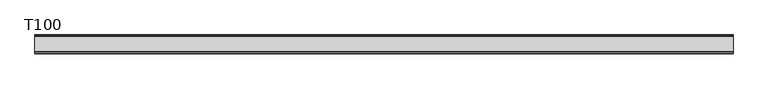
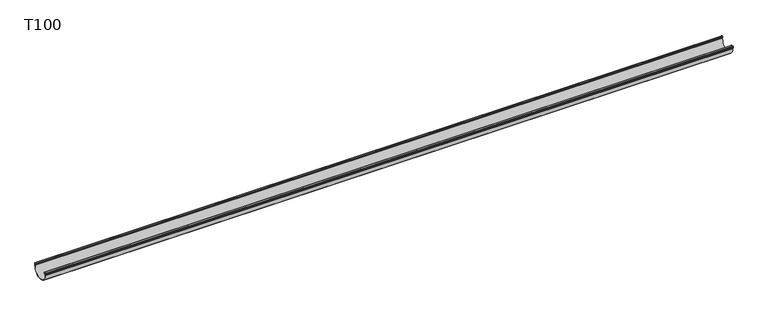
"""IFC4 building model written with IfcOpenShell, lengths in millimetres: proxy geometry, GROVIK_Gutter_Straight : T100."""

from ifc_helpers import new_model, si_unit, point, frame, frame_2d, origin, place, context, project, spatial, polyline, circle_curve, trimmed, segment, composite_curve, outline, extrude, source, transform, mapped, element, save


def t100_6eca1e63(model_context):
    return source(origin(), model_context, "Body", "SweptSolid", [
        extrude(outline(composite_curve([segment(polyline([(95.6785725, -12.9222473), (100.8871557, -13.3779392)]), True, "CONTINUOUS"), segment(trimmed(circle_curve(frame_2d((100.8, -14.3741339)), 1.0), [point((100.8871557, -13.3779392))], [point((101.8, -14.3741339))], False, "CARTESIAN"), True, "CONTINUOUS"), segment(polyline([(101.8, -14.3741339), (101.8, -16.3578028)]), True, "CONTINUOUS"), segment(trimmed(circle_curve(frame_2d((50.9, -16.3578028)), 50.9), [point((101.8, -16.3578028))], [point((0.0, -16.3578028))], False, "CARTESIAN"), True, "CONTINUOUS"), segment(polyline([(0.0, -16.3578028), (0.0, -0.5)]), True, "CONTINUOUS"), segment(trimmed(circle_curve(frame_2d((0.5, -0.5)), 0.5), [point((0.0, -0.5))], [point((0.8213938, -0.1169778))], False, "CARTESIAN"), True, "CONTINUOUS"), segment(polyline([(0.8213938, -0.1169778), (6.2279844, -4.6536459), (5.6494755, -5.3430859), (0.9, -1.3578028), (0.9, -16.3578028)]), True, "CONTINUOUS"), segment(trimmed(circle_curve(frame_2d((50.9, -16.3578028)), 50.0), [point((0.9, -16.3578028))], [point((100.9, -16.3578028))], True, "CARTESIAN"), True, "CONTINUOUS"), segment(polyline([(100.9, -16.3578028), (100.9, -14.2825007), (95.683723, -13.8261357)]), True, "CONTINUOUS"), segment(trimmed(circle_curve(frame_2d((95.683723, -12.9170968)), 0.909039), [point((95.683723, -13.8261357))], [point((94.7746841, -12.9170968))], False, "CARTESIAN"), True, "CONTINUOUS"), segment(polyline([(94.7746841, -12.9170968), (93.9345391, -3.3141955)]), True, "CONTINUOUS"), segment(trimmed(circle_curve(frame_2d((94.9307338, -3.2270397)), 1.0), [point((93.9345391, -3.3141955))], [point((94.7570856, -2.2422319))], False, "CARTESIAN"), True, "CONTINUOUS"), segment(polyline([(94.7570856, -2.2422319), (104.6051631, -0.5057502)]), True, "CONTINUOUS"), segment(trimmed(circle_curve(frame_2d((104.6923189, -1.5019449)), 1.0), [point((104.6051631, -0.5057502))], [point((105.6885136, -1.4147891))], False, "CARTESIAN"), True, "CONTINUOUS"), segment(polyline([(105.6885136, -1.4147891), (106.1850202, -7.0898858)]), True, "CONTINUOUS"), segment(trimmed(circle_curve(frame_2d((105.1888255, -7.1770416)), 1.0), [point((106.1850202, -7.0898858))], [point((105.0151773, -8.1618493))], False, "CARTESIAN"), True, "CONTINUOUS"), segment(polyline([(105.0151773, -8.1618493), (98.1850202, -6.9575084), (98.3413035, -6.0711813), (105.2998033, -7.2981526), (104.7816977, -1.3761787), (94.8220658, -3.1323306), (95.6785725, -12.9222473)]), True, "CONTINUOUS")], self_intersect=False)), frame((3920.984366, 0.0, -3.9199844), z_axis=(-0.999999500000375, 0.0, 0.0009999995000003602), x_axis=(0.0, -1.0, 0.0)), (0.0, 0.0, 1.0), 3919.9863259),
    ])


if __name__ == "__main__":
    model = new_model("IFC4")
    model_context = context("Model", 3, world=origin())
    ifc_project = project(units=[si_unit("LENGTHUNIT", "METRE", prefix="MILLI")], contexts=[model_context])
    site = spatial("IfcSite", under=ifc_project)
    building = spatial("IfcBuilding", under=site)
    placement = place(None, origin())
    t100_shape = t100_6eca1e63(model_context)
    element("IfcBuildingElementProxy", 1, Name="GROVIK_Gutter_Straight : T100", ObjectType="GROVIK_Gutter_Straight : T100", at=placement, inside=building, context=model_context, shape_type="MappedRepresentation", body=[
        mapped(t100_shape, transform((0.0, 0.0, 0.0), x_axis=(1.0, 0.0, 0.0), y_axis=(0.0, 1.0, 0.0), z_axis=(0.0, 0.0, 1.0))),
    ])
    save(model, "model.ifc")
